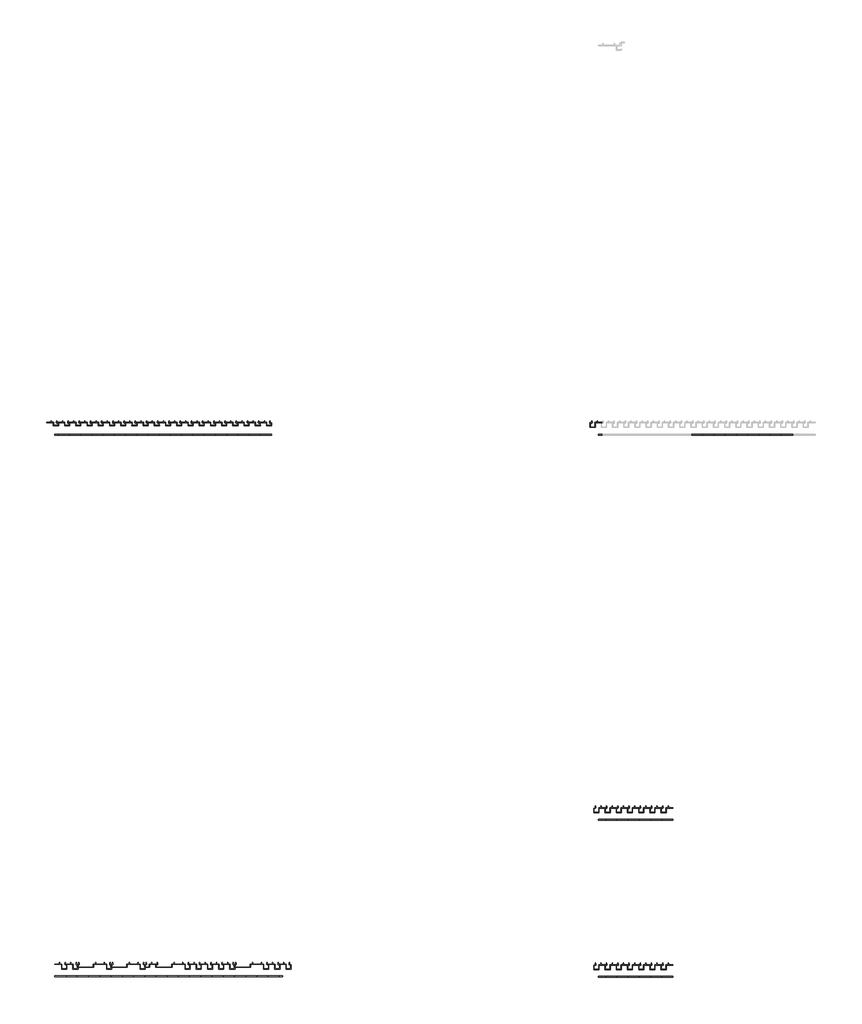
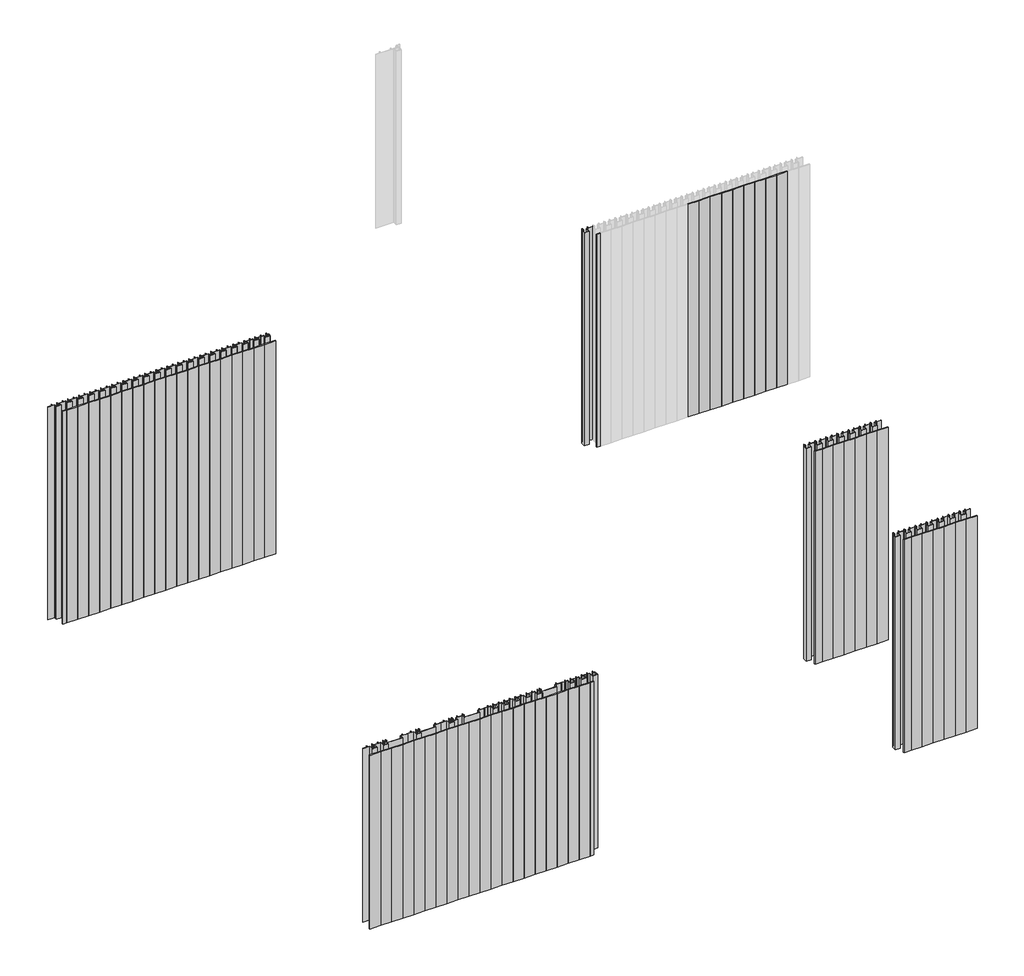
# One storey, part 1 of 5: 65 plates, 52 members.
"""IFC4 building model written with IfcOpenShell, lengths in millimetres."""

from ifc_helpers import new_model, si_unit, origin, place, context, project, spatial, transform, mapped, element, save
from components import rectangular_mullion_70294d3d, rectangular_mullion_d270c674, rectangular_mullion_f86fa1ba, rectangular_mullion_5ee05838, rectangular_mullion_c315bab6, rectangular_mullion_ed2689c2, rectangular_mullion_84234f72, rectangular_mullion_76c2134e, empty_system_panel_empty_0988e1f0, empty_system_panel_empty_c051c962, empty_system_panel_empty_b723bac0, empty_system_panel_empty_58314f5d, empty_system_panel_empty_e4970c4e, empty_system_panel_empty_5e3e958f, empty_system_panel_empty_092e5d7a

model = new_model("IFC4")

# Units and contexts
model_context = context("Model", 3, world=origin())
ifc_project = project(units=[si_unit("LENGTHUNIT", "METRE", prefix="MILLI")], contexts=[model_context])

# Site, building, storey
site = spatial("IfcSite", under=ifc_project)
building = spatial("IfcBuilding", under=site)
storey = spatial("IfcBuildingStorey", under=building, Name="REN - Ground plan", Elevation=0.0)

# Members
placement = place(None, origin())
rectangular_mullion_shape = rectangular_mullion_70294d3d(model_context)
element("IfcMember", 1, ObjectType="Rectangular Mullion : Renson_Linarte_LA-B16-Large", at=placement, inside=storey, context=model_context, shape_type="MappedRepresentation", body=[
    mapped(rectangular_mullion_shape, transform((4184.5640558, 2644.9065197, 0.0), x_axis=(1.0, 0.0, 0.0), y_axis=(0.0, -1.0, 0.0), z_axis=(0.0, 0.0, -1.0))),
])
element("IfcMember", 2, ObjectType="Rectangular Mullion : Renson_Linarte_LA-B16-Large", at=placement, inside=storey, context=model_context, shape_type="MappedRepresentation", body=[
    mapped(rectangular_mullion_shape, transform((4364.5640558, 2644.9065197, 0.0), x_axis=(1.0, 0.0, 0.0), y_axis=(0.0, -1.0, 0.0), z_axis=(0.0, 0.0, -1.0))),
])
element("IfcMember", 3, ObjectType="Rectangular Mullion : Renson_Linarte_LA-B16-Large", at=placement, inside=storey, context=model_context, shape_type="MappedRepresentation", body=[
    mapped(rectangular_mullion_shape, transform((4604.5640558, 2644.9065197, 0.0), x_axis=(1.0, 0.0, 0.0), y_axis=(0.0, -1.0, 0.0), z_axis=(0.0, 0.0, -1.0))),
])
element("IfcMember", 4, ObjectType="Rectangular Mullion : Renson_Linarte_LA-B16-Large", at=placement, inside=storey, context=model_context, shape_type="MappedRepresentation", body=[
    mapped(rectangular_mullion_shape, transform((5024.5640558, 2644.9065197, 0.0), x_axis=(1.0, 0.0, 0.0), y_axis=(0.0, -1.0, 0.0), z_axis=(0.0, 0.0, -1.0))),
])
rectangular_mullion_2_shape = rectangular_mullion_d270c674(model_context)
element("IfcMember", 5, ObjectType="Rectangular Mullion : Renson_Linarte_LA-B16-01", at=placement, inside=storey, context=model_context, shape_type="MappedRepresentation", body=[
    mapped(rectangular_mullion_2_shape, transform((4544.5640558, 2644.9065197, 0.0), x_axis=(1.0, 0.0, 0.0), y_axis=(0.0, -1.0, 0.0), z_axis=(0.0, 0.0, -1.0))),
])
rectangular_mullion_3_shape = rectangular_mullion_f86fa1ba(model_context)
element("IfcMember", 6, ObjectType="Rectangular Mullion : Renson_Linarte_LA-B16-01", at=placement, inside=storey, context=model_context, shape_type="MappedRepresentation", body=[
    mapped(rectangular_mullion_3_shape, transform((5104.5640552, 5541.5060851, 0.0), x_axis=(-1.0, 0.0, 0.0), y_axis=(0.0, 1.0, 0.0), z_axis=(0.0, 0.0, -1.0))),
])
element("IfcMember", 7, ObjectType="Rectangular Mullion : Renson_Linarte_LA-B16-01", at=placement, inside=storey, context=model_context, shape_type="MappedRepresentation", body=[
    mapped(rectangular_mullion_3_shape, transform((5044.5640552, 5541.5060851, 0.0), x_axis=(-1.0, 0.0, 0.0), y_axis=(0.0, 1.0, 0.0), z_axis=(0.0, 0.0, -1.0))),
])
element("IfcMember", 8, ObjectType="Rectangular Mullion : Renson_Linarte_LA-B16-01", at=placement, inside=storey, context=model_context, shape_type="MappedRepresentation", body=[
    mapped(rectangular_mullion_3_shape, transform((4984.5640552, 5541.5060851, 0.0), x_axis=(-1.0, 0.0, 0.0), y_axis=(0.0, 1.0, 0.0), z_axis=(0.0, 0.0, -1.0))),
])
element("IfcMember", 9, ObjectType="Rectangular Mullion : Renson_Linarte_LA-B16-01", at=placement, inside=storey, context=model_context, shape_type="MappedRepresentation", body=[
    mapped(rectangular_mullion_3_shape, transform((4924.5640552, 5541.5060851, 0.0), x_axis=(-1.0, 0.0, 0.0), y_axis=(0.0, 1.0, 0.0), z_axis=(0.0, 0.0, -1.0))),
])
element("IfcMember", 10, ObjectType="Rectangular Mullion : Renson_Linarte_LA-B16-01", at=placement, inside=storey, context=model_context, shape_type="MappedRepresentation", body=[
    mapped(rectangular_mullion_3_shape, transform((4864.5640552, 5541.5060851, 0.0), x_axis=(-1.0, 0.0, 0.0), y_axis=(0.0, 1.0, 0.0), z_axis=(0.0, 0.0, -1.0))),
])
element("IfcMember", 11, ObjectType="Rectangular Mullion : Renson_Linarte_LA-B16-01", at=placement, inside=storey, context=model_context, shape_type="MappedRepresentation", body=[
    mapped(rectangular_mullion_3_shape, transform((4804.5640552, 5541.5060851, 0.0), x_axis=(-1.0, 0.0, 0.0), y_axis=(0.0, 1.0, 0.0), z_axis=(0.0, 0.0, -1.0))),
])
element("IfcMember", 12, ObjectType="Rectangular Mullion : Renson_Linarte_LA-B16-01", at=placement, inside=storey, context=model_context, shape_type="MappedRepresentation", body=[
    mapped(rectangular_mullion_3_shape, transform((4744.5640552, 5541.5060851, 0.0), x_axis=(-1.0, 0.0, 0.0), y_axis=(0.0, 1.0, 0.0), z_axis=(0.0, 0.0, -1.0))),
])
element("IfcMember", 13, ObjectType="Rectangular Mullion : Renson_Linarte_LA-B16-01", at=placement, inside=storey, context=model_context, shape_type="MappedRepresentation", body=[
    mapped(rectangular_mullion_3_shape, transform((4684.5640552, 5541.5060851, 0.0), x_axis=(-1.0, 0.0, 0.0), y_axis=(0.0, 1.0, 0.0), z_axis=(0.0, 0.0, -1.0))),
])
element("IfcMember", 14, ObjectType="Rectangular Mullion : Renson_Linarte_LA-B16-01", at=placement, inside=storey, context=model_context, shape_type="MappedRepresentation", body=[
    mapped(rectangular_mullion_3_shape, transform((4624.5640552, 5541.5060851, 0.0), x_axis=(-1.0, 0.0, 0.0), y_axis=(0.0, 1.0, 0.0), z_axis=(0.0, 0.0, -1.0))),
])
element("IfcMember", 15, ObjectType="Rectangular Mullion : Renson_Linarte_LA-B16-01", at=placement, inside=storey, context=model_context, shape_type="MappedRepresentation", body=[
    mapped(rectangular_mullion_3_shape, transform((4564.5640552, 5541.5060851, 0.0), x_axis=(-1.0, 0.0, 0.0), y_axis=(0.0, 1.0, 0.0), z_axis=(0.0, 0.0, -1.0))),
])
element("IfcMember", 16, ObjectType="Rectangular Mullion : Renson_Linarte_LA-B16-01", at=placement, inside=storey, context=model_context, shape_type="MappedRepresentation", body=[
    mapped(rectangular_mullion_3_shape, transform((4504.5640552, 5541.5060851, 0.0), x_axis=(-1.0, 0.0, 0.0), y_axis=(0.0, 1.0, 0.0), z_axis=(0.0, 0.0, -1.0))),
])
element("IfcMember", 17, ObjectType="Rectangular Mullion : Renson_Linarte_LA-B16-01", at=placement, inside=storey, context=model_context, shape_type="MappedRepresentation", body=[
    mapped(rectangular_mullion_3_shape, transform((4444.5640552, 5541.5060851, 0.0), x_axis=(-1.0, 0.0, 0.0), y_axis=(0.0, 1.0, 0.0), z_axis=(0.0, 0.0, -1.0))),
])
element("IfcMember", 18, ObjectType="Rectangular Mullion : Renson_Linarte_LA-B16-01", at=placement, inside=storey, context=model_context, shape_type="MappedRepresentation", body=[
    mapped(rectangular_mullion_3_shape, transform((4384.5640552, 5541.5060851, 0.0), x_axis=(-1.0, 0.0, 0.0), y_axis=(0.0, 1.0, 0.0), z_axis=(0.0, 0.0, -1.0))),
])
element("IfcMember", 19, ObjectType="Rectangular Mullion : Renson_Linarte_LA-B16-01", at=placement, inside=storey, context=model_context, shape_type="MappedRepresentation", body=[
    mapped(rectangular_mullion_3_shape, transform((4324.5640552, 5541.5060851, 0.0), x_axis=(-1.0, 0.0, 0.0), y_axis=(0.0, 1.0, 0.0), z_axis=(0.0, 0.0, -1.0))),
])
element("IfcMember", 20, ObjectType="Rectangular Mullion : Renson_Linarte_LA-B16-01", at=placement, inside=storey, context=model_context, shape_type="MappedRepresentation", body=[
    mapped(rectangular_mullion_3_shape, transform((4264.5640552, 5541.5060851, 0.0), x_axis=(-1.0, 0.0, 0.0), y_axis=(0.0, 1.0, 0.0), z_axis=(0.0, 0.0, -1.0))),
])
element("IfcMember", 21, ObjectType="Rectangular Mullion : Renson_Linarte_LA-B16-01", at=placement, inside=storey, context=model_context, shape_type="MappedRepresentation", body=[
    mapped(rectangular_mullion_3_shape, transform((4204.5640552, 5541.5060851, 0.0), x_axis=(-1.0, 0.0, 0.0), y_axis=(0.0, 1.0, 0.0), z_axis=(0.0, 0.0, -1.0))),
])
element("IfcMember", 22, ObjectType="Rectangular Mullion : Renson_Linarte_LA-B16-01", at=placement, inside=storey, context=model_context, shape_type="MappedRepresentation", body=[
    mapped(rectangular_mullion_3_shape, transform((4144.5640552, 5541.5060851, 0.0), x_axis=(-1.0, 0.0, 0.0), y_axis=(0.0, 1.0, 0.0), z_axis=(0.0, 0.0, -1.0))),
])
element("IfcMember", 23, ObjectType="Rectangular Mullion : Renson_Linarte_LA-B16-01", at=placement, inside=storey, context=model_context, shape_type="MappedRepresentation", body=[
    mapped(rectangular_mullion_3_shape, transform((5164.5640552, 5541.5060851, 0.0), x_axis=(-1.0, 0.0, 0.0), y_axis=(0.0, 1.0, 0.0), z_axis=(0.0, 0.0, -1.0))),
])
element("IfcMember", 24, ObjectType="Rectangular Mullion : Renson_Linarte_LA-B16-01", at=placement, inside=storey, context=model_context, shape_type="MappedRepresentation", body=[
    mapped(rectangular_mullion_3_shape, transform((4084.5640552, 5541.5060851, 0.0), x_axis=(-1.0, 0.0, 0.0), y_axis=(0.0, 1.0, 0.0), z_axis=(0.0, 0.0, -1.0))),
])
rectangular_mullion_4_shape = rectangular_mullion_5ee05838(model_context)
element("IfcMember", 25, ObjectType="Rectangular Mullion : Renson_Linarte_LA-B16-01", at=placement, inside=storey, context=model_context, shape_type="MappedRepresentation", body=[
    mapped(rectangular_mullion_4_shape, transform((5224.5640555, 5541.5060851, 1225.5020157), x_axis=(1.0, 0.0, 0.0), y_axis=(0.0, 1.0, 0.0), z_axis=(0.0, 0.0, 1.0))),
])
rectangular_mullion_5_shape = rectangular_mullion_c315bab6(model_context)
element("IfcMember", 26, ObjectType="Rectangular Mullion : Renson_Linarte_LA-B25-01", at=placement, inside=storey, context=model_context, shape_type="MappedRepresentation", body=[
    mapped(rectangular_mullion_5_shape, transform((6992.7344965, 5541.5060851, 0.0), x_axis=(-1.0, 0.0, 0.0), y_axis=(0.0, 1.0, 0.0), z_axis=(0.0, 0.0, -1.0))),
])
element("IfcMember", 27, ObjectType="Rectangular Mullion : Renson_Linarte_LA-B25-01-Wood design - Coriander Oak", at=placement, inside=storey, context=model_context, shape_type="MappedRepresentation", body=[
    mapped(rectangular_mullion_5_shape, transform((7252.7344965, 3481.5060851, 0.0), x_axis=(-1.0, 0.0, 0.0), y_axis=(0.0, 1.0, 0.0), z_axis=(0.0, 0.0, -1.0))),
])
element("IfcMember", 28, ObjectType="Rectangular Mullion : Renson_Linarte_LA-B25-01-Wood design - Coriander Oak", at=placement, inside=storey, context=model_context, shape_type="MappedRepresentation", body=[
    mapped(rectangular_mullion_5_shape, transform((7192.7344965, 3481.5060851, 0.0), x_axis=(-1.0, 0.0, 0.0), y_axis=(0.0, 1.0, 0.0), z_axis=(0.0, 0.0, -1.0))),
])
element("IfcMember", 29, ObjectType="Rectangular Mullion : Renson_Linarte_LA-B25-01-Wood design - Coriander Oak", at=placement, inside=storey, context=model_context, shape_type="MappedRepresentation", body=[
    mapped(rectangular_mullion_5_shape, transform((7132.7344965, 3481.5060851, 0.0), x_axis=(-1.0, 0.0, 0.0), y_axis=(0.0, 1.0, 0.0), z_axis=(0.0, 0.0, -1.0))),
])
element("IfcMember", 30, ObjectType="Rectangular Mullion : Renson_Linarte_LA-B25-01-Wood design - Coriander Oak", at=placement, inside=storey, context=model_context, shape_type="MappedRepresentation", body=[
    mapped(rectangular_mullion_5_shape, transform((7072.7344965, 3481.5060851, 0.0), x_axis=(-1.0, 0.0, 0.0), y_axis=(0.0, 1.0, 0.0), z_axis=(0.0, 0.0, -1.0))),
])
element("IfcMember", 31, ObjectType="Rectangular Mullion : Renson_Linarte_LA-B25-01-Wood design - Coriander Oak", at=placement, inside=storey, context=model_context, shape_type="MappedRepresentation", body=[
    mapped(rectangular_mullion_5_shape, transform((7312.7344965, 3481.5060851, 0.0), x_axis=(-1.0, 0.0, 0.0), y_axis=(0.0, 1.0, 0.0), z_axis=(0.0, 0.0, -1.0))),
])
element("IfcMember", 32, ObjectType="Rectangular Mullion : Renson_Linarte_LA-B25-01-Wood design - Coriander Oak", at=placement, inside=storey, context=model_context, shape_type="MappedRepresentation", body=[
    mapped(rectangular_mullion_5_shape, transform((7012.7344965, 3481.5060851, 0.0), x_axis=(-1.0, 0.0, 0.0), y_axis=(0.0, 1.0, 0.0), z_axis=(0.0, 0.0, -1.0))),
])
rectangular_mullion_6_shape = rectangular_mullion_ed2689c2(model_context)
element("IfcMember", 33, ObjectType="Rectangular Mullion : Renson_Linarte_LA-B25-01-Wood design - Coriander Oak", at=placement, inside=storey, context=model_context, shape_type="MappedRepresentation", body=[
    mapped(rectangular_mullion_6_shape, transform((7372.7344968, 3481.5060851, 1225.5020157), x_axis=(1.0, 0.0, 0.0), y_axis=(0.0, 1.0, 0.0), z_axis=(0.0, 0.0, 1.0))),
])
element("IfcMember", 34, ObjectType="Rectangular Mullion : Renson_Linarte_LA-B25-01-Wood design -Toffee Oak", at=placement, inside=storey, context=model_context, shape_type="MappedRepresentation", body=[
    mapped(rectangular_mullion_5_shape, transform((7252.7344965, 2641.5060851, 0.0), x_axis=(-1.0, 0.0, 0.0), y_axis=(0.0, 1.0, 0.0), z_axis=(0.0, 0.0, -1.0))),
])
element("IfcMember", 35, ObjectType="Rectangular Mullion : Renson_Linarte_LA-B25-01-Wood design -Toffee Oak", at=placement, inside=storey, context=model_context, shape_type="MappedRepresentation", body=[
    mapped(rectangular_mullion_5_shape, transform((7192.7344965, 2641.5060851, 0.0), x_axis=(-1.0, 0.0, 0.0), y_axis=(0.0, 1.0, 0.0), z_axis=(0.0, 0.0, -1.0))),
])
element("IfcMember", 36, ObjectType="Rectangular Mullion : Renson_Linarte_LA-B25-01-Wood design -Toffee Oak", at=placement, inside=storey, context=model_context, shape_type="MappedRepresentation", body=[
    mapped(rectangular_mullion_5_shape, transform((7132.7344965, 2641.5060851, 0.0), x_axis=(-1.0, 0.0, 0.0), y_axis=(0.0, 1.0, 0.0), z_axis=(0.0, 0.0, -1.0))),
])
element("IfcMember", 37, ObjectType="Rectangular Mullion : Renson_Linarte_LA-B25-01-Wood design -Toffee Oak", at=placement, inside=storey, context=model_context, shape_type="MappedRepresentation", body=[
    mapped(rectangular_mullion_5_shape, transform((7072.7344965, 2641.5060851, 0.0), x_axis=(-1.0, 0.0, 0.0), y_axis=(0.0, 1.0, 0.0), z_axis=(0.0, 0.0, -1.0))),
])
element("IfcMember", 38, ObjectType="Rectangular Mullion : Renson_Linarte_LA-B25-01-Wood design -Toffee Oak", at=placement, inside=storey, context=model_context, shape_type="MappedRepresentation", body=[
    mapped(rectangular_mullion_5_shape, transform((7312.7344965, 2641.5060851, 0.0), x_axis=(-1.0, 0.0, 0.0), y_axis=(0.0, 1.0, 0.0), z_axis=(0.0, 0.0, -1.0))),
])
element("IfcMember", 39, ObjectType="Rectangular Mullion : Renson_Linarte_LA-B25-01-Wood design -Toffee Oak", at=placement, inside=storey, context=model_context, shape_type="MappedRepresentation", body=[
    mapped(rectangular_mullion_5_shape, transform((7012.7344965, 2641.5060851, 0.0), x_axis=(-1.0, 0.0, 0.0), y_axis=(0.0, 1.0, 0.0), z_axis=(0.0, 0.0, -1.0))),
])
element("IfcMember", 40, ObjectType="Rectangular Mullion : Renson_Linarte_LA-B25-01-Wood design -Toffee Oak", at=placement, inside=storey, context=model_context, shape_type="MappedRepresentation", body=[
    mapped(rectangular_mullion_6_shape, transform((7372.7344968, 2641.5060851, 1225.5020157), x_axis=(1.0, 0.0, 0.0), y_axis=(0.0, 1.0, 0.0), z_axis=(0.0, 0.0, 1.0))),
])
rectangular_mullion_7_shape = rectangular_mullion_84234f72(model_context)
element("IfcMember", 41, ObjectType="Rectangular Mullion : Renson_Linarte_LA-B25-01-Wood design -Toffee Oak", at=placement, inside=storey, context=model_context, shape_type="MappedRepresentation", body=[
    mapped(rectangular_mullion_7_shape, transform((4304.5640558, 2644.9065197, 0.0), x_axis=(1.0, 0.0, 0.0), y_axis=(0.0, -1.0, 0.0), z_axis=(0.0, 0.0, -1.0))),
])
element("IfcMember", 42, ObjectType="Rectangular Mullion : Renson_Linarte_LA-B25-01-Wood design -Toffee Oak", at=placement, inside=storey, context=model_context, shape_type="MappedRepresentation", body=[
    mapped(rectangular_mullion_7_shape, transform((4484.5640558, 2644.9065197, 0.0), x_axis=(1.0, 0.0, 0.0), y_axis=(0.0, -1.0, 0.0), z_axis=(0.0, 0.0, -1.0))),
])
element("IfcMember", 43, ObjectType="Rectangular Mullion : Renson_Linarte_LA-B25-01-Wood design -Toffee Oak", at=placement, inside=storey, context=model_context, shape_type="MappedRepresentation", body=[
    mapped(rectangular_mullion_7_shape, transform((4724.5640558, 2644.9065197, 0.0), x_axis=(1.0, 0.0, 0.0), y_axis=(0.0, -1.0, 0.0), z_axis=(0.0, 0.0, -1.0))),
])
element("IfcMember", 44, ObjectType="Rectangular Mullion : Renson_Linarte_LA-B25-01-Wood design -Toffee Oak", at=placement, inside=storey, context=model_context, shape_type="MappedRepresentation", body=[
    mapped(rectangular_mullion_7_shape, transform((4784.5640558, 2644.9065197, 0.0), x_axis=(1.0, 0.0, 0.0), y_axis=(0.0, -1.0, 0.0), z_axis=(0.0, 0.0, -1.0))),
])
element("IfcMember", 45, ObjectType="Rectangular Mullion : Renson_Linarte_LA-B25-01-Wood design -Toffee Oak", at=placement, inside=storey, context=model_context, shape_type="MappedRepresentation", body=[
    mapped(rectangular_mullion_7_shape, transform((4844.5640558, 2644.9065197, 0.0), x_axis=(1.0, 0.0, 0.0), y_axis=(0.0, -1.0, 0.0), z_axis=(0.0, 0.0, -1.0))),
])
element("IfcMember", 46, ObjectType="Rectangular Mullion : Renson_Linarte_LA-B25-01-Wood design -Toffee Oak", at=placement, inside=storey, context=model_context, shape_type="MappedRepresentation", body=[
    mapped(rectangular_mullion_7_shape, transform((4904.5640558, 2644.9065197, 0.0), x_axis=(1.0, 0.0, 0.0), y_axis=(0.0, -1.0, 0.0), z_axis=(0.0, 0.0, -1.0))),
])
element("IfcMember", 47, ObjectType="Rectangular Mullion : Renson_Linarte_LA-B25-01-Wood design -Toffee Oak", at=placement, inside=storey, context=model_context, shape_type="MappedRepresentation", body=[
    mapped(rectangular_mullion_7_shape, transform((4964.5640558, 2644.9065197, 0.0), x_axis=(1.0, 0.0, 0.0), y_axis=(0.0, -1.0, 0.0), z_axis=(0.0, 0.0, -1.0))),
])
element("IfcMember", 48, ObjectType="Rectangular Mullion : Renson_Linarte_LA-B25-01-Wood design -Toffee Oak", at=placement, inside=storey, context=model_context, shape_type="MappedRepresentation", body=[
    mapped(rectangular_mullion_7_shape, transform((5144.5640558, 2644.9065197, 0.0), x_axis=(1.0, 0.0, 0.0), y_axis=(0.0, -1.0, 0.0), z_axis=(0.0, 0.0, -1.0))),
])
element("IfcMember", 49, ObjectType="Rectangular Mullion : Renson_Linarte_LA-B25-01-Wood design -Toffee Oak", at=placement, inside=storey, context=model_context, shape_type="MappedRepresentation", body=[
    mapped(rectangular_mullion_7_shape, transform((5204.5640558, 2644.9065197, 0.0), x_axis=(1.0, 0.0, 0.0), y_axis=(0.0, -1.0, 0.0), z_axis=(0.0, 0.0, -1.0))),
])
element("IfcMember", 50, ObjectType="Rectangular Mullion : Renson_Linarte_LA-B25-01-Wood design -Toffee Oak", at=placement, inside=storey, context=model_context, shape_type="MappedRepresentation", body=[
    mapped(rectangular_mullion_7_shape, transform((5264.5640558, 2644.9065197, 0.0), x_axis=(1.0, 0.0, 0.0), y_axis=(0.0, -1.0, 0.0), z_axis=(0.0, 0.0, -1.0))),
])
element("IfcMember", 51, ObjectType="Rectangular Mullion : Renson_Linarte_LA-B25-01-Wood design -Toffee Oak", at=placement, inside=storey, context=model_context, shape_type="MappedRepresentation", body=[
    mapped(rectangular_mullion_7_shape, transform((4124.5640558, 2644.9065197, 0.0), x_axis=(1.0, 0.0, 0.0), y_axis=(0.0, -1.0, 0.0), z_axis=(0.0, 0.0, -1.0))),
])
rectangular_mullion_8_shape = rectangular_mullion_76c2134e(model_context)
element("IfcMember", 52, ObjectType="Rectangular Mullion : Renson_Linarte_LA-B25-01-Wood design -Toffee Oak", at=placement, inside=storey, context=model_context, shape_type="MappedRepresentation", body=[
    mapped(rectangular_mullion_8_shape, transform((4064.5640555, 2644.9065197, 1000.0), x_axis=(-1.0, 0.0, 0.0), y_axis=(0.0, -1.0, 0.0), z_axis=(0.0, 0.0, 1.0))),
])

# Plates
empty_system_panel_empty_shape = empty_system_panel_empty_0988e1f0(model_context)
element("IfcPlate", 53, ObjectType="Empty System Panel : Empty", at=placement, inside=storey, context=model_context, shape_type="MappedRepresentation", body=[
    mapped(empty_system_panel_empty_shape, transform((4214.5640558, 2644.9065197, 0.0), x_axis=(1.0, 0.0, 0.0), y_axis=(0.0, 1.0, 0.0), z_axis=(0.0, 0.0, 1.0))),
])
element("IfcPlate", 54, ObjectType="Empty System Panel : Empty", at=placement, inside=storey, context=model_context, shape_type="MappedRepresentation", body=[
    mapped(empty_system_panel_empty_shape, transform((4274.5640558, 2644.9065197, 0.0), x_axis=(1.0, 0.0, 0.0), y_axis=(0.0, 1.0, 0.0), z_axis=(0.0, 0.0, 1.0))),
])
element("IfcPlate", 55, ObjectType="Empty System Panel : Empty", at=placement, inside=storey, context=model_context, shape_type="MappedRepresentation", body=[
    mapped(empty_system_panel_empty_shape, transform((4334.5640558, 2644.9065197, 0.0), x_axis=(1.0, 0.0, 0.0), y_axis=(0.0, 1.0, 0.0), z_axis=(0.0, 0.0, 1.0))),
])
element("IfcPlate", 56, ObjectType="Empty System Panel : Empty", at=placement, inside=storey, context=model_context, shape_type="MappedRepresentation", body=[
    mapped(empty_system_panel_empty_shape, transform((4394.5640558, 2644.9065197, 0.0), x_axis=(1.0, 0.0, 0.0), y_axis=(0.0, 1.0, 0.0), z_axis=(0.0, 0.0, 1.0))),
])
element("IfcPlate", 57, ObjectType="Empty System Panel : Empty", at=placement, inside=storey, context=model_context, shape_type="MappedRepresentation", body=[
    mapped(empty_system_panel_empty_shape, transform((4454.5640558, 2644.9065197, 0.0), x_axis=(1.0, 0.0, 0.0), y_axis=(0.0, 1.0, 0.0), z_axis=(0.0, 0.0, 1.0))),
])
element("IfcPlate", 58, ObjectType="Empty System Panel : Empty", at=placement, inside=storey, context=model_context, shape_type="MappedRepresentation", body=[
    mapped(empty_system_panel_empty_shape, transform((4514.5640558, 2644.9065197, 0.0), x_axis=(1.0, 0.0, 0.0), y_axis=(0.0, 1.0, 0.0), z_axis=(0.0, 0.0, 1.0))),
])
element("IfcPlate", 59, ObjectType="Empty System Panel : Empty", at=placement, inside=storey, context=model_context, shape_type="MappedRepresentation", body=[
    mapped(empty_system_panel_empty_shape, transform((4574.5640558, 2644.9065197, 0.0), x_axis=(1.0, 0.0, 0.0), y_axis=(0.0, 1.0, 0.0), z_axis=(0.0, 0.0, 1.0))),
])
element("IfcPlate", 60, ObjectType="Empty System Panel : Empty", at=placement, inside=storey, context=model_context, shape_type="MappedRepresentation", body=[
    mapped(empty_system_panel_empty_shape, transform((4634.5640558, 2644.9065197, 0.0), x_axis=(1.0, 0.0, 0.0), y_axis=(0.0, 1.0, 0.0), z_axis=(0.0, 0.0, 1.0))),
])
element("IfcPlate", 61, ObjectType="Empty System Panel : Empty", at=placement, inside=storey, context=model_context, shape_type="MappedRepresentation", body=[
    mapped(empty_system_panel_empty_shape, transform((4694.5640558, 2644.9065197, 0.0), x_axis=(1.0, 0.0, 0.0), y_axis=(0.0, 1.0, 0.0), z_axis=(0.0, 0.0, 1.0))),
])
element("IfcPlate", 62, ObjectType="Empty System Panel : Empty", at=placement, inside=storey, context=model_context, shape_type="MappedRepresentation", body=[
    mapped(empty_system_panel_empty_shape, transform((4754.5640558, 2644.9065197, 0.0), x_axis=(1.0, 0.0, 0.0), y_axis=(0.0, 1.0, 0.0), z_axis=(0.0, 0.0, 1.0))),
])
element("IfcPlate", 63, ObjectType="Empty System Panel : Empty", at=placement, inside=storey, context=model_context, shape_type="MappedRepresentation", body=[
    mapped(empty_system_panel_empty_shape, transform((4814.5640558, 2644.9065197, 0.0), x_axis=(1.0, 0.0, 0.0), y_axis=(0.0, 1.0, 0.0), z_axis=(0.0, 0.0, 1.0))),
])
element("IfcPlate", 64, ObjectType="Empty System Panel : Empty", at=placement, inside=storey, context=model_context, shape_type="MappedRepresentation", body=[
    mapped(empty_system_panel_empty_shape, transform((4874.5640558, 2644.9065197, 0.0), x_axis=(1.0, 0.0, 0.0), y_axis=(0.0, 1.0, 0.0), z_axis=(0.0, 0.0, 1.0))),
])
element("IfcPlate", 65, ObjectType="Empty System Panel : Empty", at=placement, inside=storey, context=model_context, shape_type="MappedRepresentation", body=[
    mapped(empty_system_panel_empty_shape, transform((4934.5640558, 2644.9065197, 0.0), x_axis=(1.0, 0.0, 0.0), y_axis=(0.0, 1.0, 0.0), z_axis=(0.0, 0.0, 1.0))),
])
element("IfcPlate", 66, ObjectType="Empty System Panel : Empty", at=placement, inside=storey, context=model_context, shape_type="MappedRepresentation", body=[
    mapped(empty_system_panel_empty_shape, transform((4994.5640558, 2644.9065197, 0.0), x_axis=(1.0, 0.0, 0.0), y_axis=(0.0, 1.0, 0.0), z_axis=(0.0, 0.0, 1.0))),
])
element("IfcPlate", 67, ObjectType="Empty System Panel : Empty", at=placement, inside=storey, context=model_context, shape_type="MappedRepresentation", body=[
    mapped(empty_system_panel_empty_shape, transform((5054.5640558, 2644.9065197, 0.0), x_axis=(1.0, 0.0, 0.0), y_axis=(0.0, 1.0, 0.0), z_axis=(0.0, 0.0, 1.0))),
])
element("IfcPlate", 68, ObjectType="Empty System Panel : Empty", at=placement, inside=storey, context=model_context, shape_type="MappedRepresentation", body=[
    mapped(empty_system_panel_empty_shape, transform((5114.5640558, 2644.9065197, 0.0), x_axis=(1.0, 0.0, 0.0), y_axis=(0.0, 1.0, 0.0), z_axis=(0.0, 0.0, 1.0))),
])
element("IfcPlate", 69, ObjectType="Empty System Panel : Empty", at=placement, inside=storey, context=model_context, shape_type="MappedRepresentation", body=[
    mapped(empty_system_panel_empty_shape, transform((5174.5640558, 2644.9065197, 0.0), x_axis=(1.0, 0.0, 0.0), y_axis=(0.0, 1.0, 0.0), z_axis=(0.0, 0.0, 1.0))),
])
element("IfcPlate", 70, ObjectType="Empty System Panel : Empty", at=placement, inside=storey, context=model_context, shape_type="MappedRepresentation", body=[
    mapped(empty_system_panel_empty_shape, transform((5234.5640558, 2644.9065197, 0.0), x_axis=(1.0, 0.0, 0.0), y_axis=(0.0, 1.0, 0.0), z_axis=(0.0, 0.0, 1.0))),
])
element("IfcPlate", 71, ObjectType="Empty System Panel : Empty", at=placement, inside=storey, context=model_context, shape_type="MappedRepresentation", body=[
    mapped(empty_system_panel_empty_shape, transform((4154.5640558, 2644.9065197, 0.0), x_axis=(1.0, 0.0, 0.0), y_axis=(0.0, 1.0, 0.0), z_axis=(0.0, 0.0, 1.0))),
])
empty_system_panel_empty_2_shape = empty_system_panel_empty_c051c962(model_context)
element("IfcPlate", 72, ObjectType="Empty System Panel : Empty", at=placement, inside=storey, context=model_context, shape_type="MappedRepresentation", body=[
    mapped(empty_system_panel_empty_2_shape, transform((4094.5640556, 2644.9065197, 0.0), x_axis=(1.0, 0.0, 0.0), y_axis=(0.0, 1.0, 0.0), z_axis=(0.0, 0.0, 1.0))),
])
empty_system_panel_empty_3_shape = empty_system_panel_empty_b723bac0(model_context)
element("IfcPlate", 73, ObjectType="Empty System Panel : Empty", at=placement, inside=storey, context=model_context, shape_type="MappedRepresentation", body=[
    mapped(empty_system_panel_empty_3_shape, transform((5074.5640552, 5541.5060851, 0.0), x_axis=(-1.0, 0.0, 0.0), y_axis=(0.0, -1.0, 0.0), z_axis=(0.0, 0.0, 1.0))),
])
element("IfcPlate", 74, ObjectType="Empty System Panel : Empty", at=placement, inside=storey, context=model_context, shape_type="MappedRepresentation", body=[
    mapped(empty_system_panel_empty_3_shape, transform((5014.5640552, 5541.5060851, 0.0), x_axis=(-1.0, 0.0, 0.0), y_axis=(0.0, -1.0, 0.0), z_axis=(0.0, 0.0, 1.0))),
])
element("IfcPlate", 75, ObjectType="Empty System Panel : Empty", at=placement, inside=storey, context=model_context, shape_type="MappedRepresentation", body=[
    mapped(empty_system_panel_empty_3_shape, transform((4954.5640552, 5541.5060851, 0.0), x_axis=(-1.0, 0.0, 0.0), y_axis=(0.0, -1.0, 0.0), z_axis=(0.0, 0.0, 1.0))),
])
element("IfcPlate", 76, ObjectType="Empty System Panel : Empty", at=placement, inside=storey, context=model_context, shape_type="MappedRepresentation", body=[
    mapped(empty_system_panel_empty_3_shape, transform((4894.5640552, 5541.5060851, 0.0), x_axis=(-1.0, 0.0, 0.0), y_axis=(0.0, -1.0, 0.0), z_axis=(0.0, 0.0, 1.0))),
])
element("IfcPlate", 77, ObjectType="Empty System Panel : Empty", at=placement, inside=storey, context=model_context, shape_type="MappedRepresentation", body=[
    mapped(empty_system_panel_empty_3_shape, transform((4834.5640552, 5541.5060851, 0.0), x_axis=(-1.0, 0.0, 0.0), y_axis=(0.0, -1.0, 0.0), z_axis=(0.0, 0.0, 1.0))),
])
element("IfcPlate", 78, ObjectType="Empty System Panel : Empty", at=placement, inside=storey, context=model_context, shape_type="MappedRepresentation", body=[
    mapped(empty_system_panel_empty_3_shape, transform((4774.5640552, 5541.5060851, 0.0), x_axis=(-1.0, 0.0, 0.0), y_axis=(0.0, -1.0, 0.0), z_axis=(0.0, 0.0, 1.0))),
])
element("IfcPlate", 79, ObjectType="Empty System Panel : Empty", at=placement, inside=storey, context=model_context, shape_type="MappedRepresentation", body=[
    mapped(empty_system_panel_empty_3_shape, transform((4714.5640552, 5541.5060851, 0.0), x_axis=(-1.0, 0.0, 0.0), y_axis=(0.0, -1.0, 0.0), z_axis=(0.0, 0.0, 1.0))),
])
element("IfcPlate", 80, ObjectType="Empty System Panel : Empty", at=placement, inside=storey, context=model_context, shape_type="MappedRepresentation", body=[
    mapped(empty_system_panel_empty_3_shape, transform((4654.5640552, 5541.5060851, 0.0), x_axis=(-1.0, 0.0, 0.0), y_axis=(0.0, -1.0, 0.0), z_axis=(0.0, 0.0, 1.0))),
])
element("IfcPlate", 81, ObjectType="Empty System Panel : Empty", at=placement, inside=storey, context=model_context, shape_type="MappedRepresentation", body=[
    mapped(empty_system_panel_empty_3_shape, transform((4594.5640552, 5541.5060851, 0.0), x_axis=(-1.0, 0.0, 0.0), y_axis=(0.0, -1.0, 0.0), z_axis=(0.0, 0.0, 1.0))),
])
element("IfcPlate", 82, ObjectType="Empty System Panel : Empty", at=placement, inside=storey, context=model_context, shape_type="MappedRepresentation", body=[
    mapped(empty_system_panel_empty_3_shape, transform((4534.5640552, 5541.5060851, 0.0), x_axis=(-1.0, 0.0, 0.0), y_axis=(0.0, -1.0, 0.0), z_axis=(0.0, 0.0, 1.0))),
])
element("IfcPlate", 83, ObjectType="Empty System Panel : Empty", at=placement, inside=storey, context=model_context, shape_type="MappedRepresentation", body=[
    mapped(empty_system_panel_empty_3_shape, transform((4474.5640552, 5541.5060851, 0.0), x_axis=(-1.0, 0.0, 0.0), y_axis=(0.0, -1.0, 0.0), z_axis=(0.0, 0.0, 1.0))),
])
element("IfcPlate", 84, ObjectType="Empty System Panel : Empty", at=placement, inside=storey, context=model_context, shape_type="MappedRepresentation", body=[
    mapped(empty_system_panel_empty_3_shape, transform((4414.5640552, 5541.5060851, 0.0), x_axis=(-1.0, 0.0, 0.0), y_axis=(0.0, -1.0, 0.0), z_axis=(0.0, 0.0, 1.0))),
])
element("IfcPlate", 85, ObjectType="Empty System Panel : Empty", at=placement, inside=storey, context=model_context, shape_type="MappedRepresentation", body=[
    mapped(empty_system_panel_empty_3_shape, transform((4354.5640552, 5541.5060851, 0.0), x_axis=(-1.0, 0.0, 0.0), y_axis=(0.0, -1.0, 0.0), z_axis=(0.0, 0.0, 1.0))),
])
element("IfcPlate", 86, ObjectType="Empty System Panel : Empty", at=placement, inside=storey, context=model_context, shape_type="MappedRepresentation", body=[
    mapped(empty_system_panel_empty_3_shape, transform((4294.5640552, 5541.5060851, 0.0), x_axis=(-1.0, 0.0, 0.0), y_axis=(0.0, -1.0, 0.0), z_axis=(0.0, 0.0, 1.0))),
])
element("IfcPlate", 87, ObjectType="Empty System Panel : Empty", at=placement, inside=storey, context=model_context, shape_type="MappedRepresentation", body=[
    mapped(empty_system_panel_empty_3_shape, transform((4234.5640552, 5541.5060851, 0.0), x_axis=(-1.0, 0.0, 0.0), y_axis=(0.0, -1.0, 0.0), z_axis=(0.0, 0.0, 1.0))),
])
element("IfcPlate", 88, ObjectType="Empty System Panel : Empty", at=placement, inside=storey, context=model_context, shape_type="MappedRepresentation", body=[
    mapped(empty_system_panel_empty_3_shape, transform((4174.5640552, 5541.5060851, 0.0), x_axis=(-1.0, 0.0, 0.0), y_axis=(0.0, -1.0, 0.0), z_axis=(0.0, 0.0, 1.0))),
])
element("IfcPlate", 89, ObjectType="Empty System Panel : Empty", at=placement, inside=storey, context=model_context, shape_type="MappedRepresentation", body=[
    mapped(empty_system_panel_empty_3_shape, transform((4114.5640552, 5541.5060851, 0.0), x_axis=(-1.0, 0.0, 0.0), y_axis=(0.0, -1.0, 0.0), z_axis=(0.0, 0.0, 1.0))),
])
element("IfcPlate", 90, ObjectType="Empty System Panel : Empty", at=placement, inside=storey, context=model_context, shape_type="MappedRepresentation", body=[
    mapped(empty_system_panel_empty_3_shape, transform((5134.5640552, 5541.5060851, 0.0), x_axis=(-1.0, 0.0, 0.0), y_axis=(0.0, -1.0, 0.0), z_axis=(0.0, 0.0, 1.0))),
])
element("IfcPlate", 91, ObjectType="Empty System Panel : Empty", at=placement, inside=storey, context=model_context, shape_type="MappedRepresentation", body=[
    mapped(empty_system_panel_empty_3_shape, transform((7982.7344965, 5541.5060851, 0.0), x_axis=(-1.0, 0.0, 0.0), y_axis=(0.0, -1.0, 0.0), z_axis=(0.0, 0.0, 1.0))),
])
element("IfcPlate", 92, ObjectType="Empty System Panel : Empty", at=placement, inside=storey, context=model_context, shape_type="MappedRepresentation", body=[
    mapped(empty_system_panel_empty_3_shape, transform((7922.7344965, 5541.5060851, 0.0), x_axis=(-1.0, 0.0, 0.0), y_axis=(0.0, -1.0, 0.0), z_axis=(0.0, 0.0, 1.0))),
])
element("IfcPlate", 93, ObjectType="Empty System Panel : Empty", at=placement, inside=storey, context=model_context, shape_type="MappedRepresentation", body=[
    mapped(empty_system_panel_empty_3_shape, transform((7862.7344965, 5541.5060851, 0.0), x_axis=(-1.0, 0.0, 0.0), y_axis=(0.0, -1.0, 0.0), z_axis=(0.0, 0.0, 1.0))),
])
element("IfcPlate", 94, ObjectType="Empty System Panel : Empty", at=placement, inside=storey, context=model_context, shape_type="MappedRepresentation", body=[
    mapped(empty_system_panel_empty_3_shape, transform((7802.7344965, 5541.5060851, 0.0), x_axis=(-1.0, 0.0, 0.0), y_axis=(0.0, -1.0, 0.0), z_axis=(0.0, 0.0, 1.0))),
])
element("IfcPlate", 95, ObjectType="Empty System Panel : Empty", at=placement, inside=storey, context=model_context, shape_type="MappedRepresentation", body=[
    mapped(empty_system_panel_empty_3_shape, transform((7742.7344965, 5541.5060851, 0.0), x_axis=(-1.0, 0.0, 0.0), y_axis=(0.0, -1.0, 0.0), z_axis=(0.0, 0.0, 1.0))),
])
element("IfcPlate", 96, ObjectType="Empty System Panel : Empty", at=placement, inside=storey, context=model_context, shape_type="MappedRepresentation", body=[
    mapped(empty_system_panel_empty_3_shape, transform((7682.7344965, 5541.5060851, 0.0), x_axis=(-1.0, 0.0, 0.0), y_axis=(0.0, -1.0, 0.0), z_axis=(0.0, 0.0, 1.0))),
])
element("IfcPlate", 97, ObjectType="Empty System Panel : Empty", at=placement, inside=storey, context=model_context, shape_type="MappedRepresentation", body=[
    mapped(empty_system_panel_empty_3_shape, transform((7622.7344965, 5541.5060851, 0.0), x_axis=(-1.0, 0.0, 0.0), y_axis=(0.0, -1.0, 0.0), z_axis=(0.0, 0.0, 1.0))),
])
element("IfcPlate", 98, ObjectType="Empty System Panel : Empty", at=placement, inside=storey, context=model_context, shape_type="MappedRepresentation", body=[
    mapped(empty_system_panel_empty_3_shape, transform((7562.7344965, 5541.5060851, 0.0), x_axis=(-1.0, 0.0, 0.0), y_axis=(0.0, -1.0, 0.0), z_axis=(0.0, 0.0, 1.0))),
])
element("IfcPlate", 99, ObjectType="Empty System Panel : Empty", at=placement, inside=storey, context=model_context, shape_type="MappedRepresentation", body=[
    mapped(empty_system_panel_empty_3_shape, transform((7502.7344965, 5541.5060851, 0.0), x_axis=(-1.0, 0.0, 0.0), y_axis=(0.0, -1.0, 0.0), z_axis=(0.0, 0.0, 1.0))),
])
element("IfcPlate", 100, ObjectType="Empty System Panel : Empty", at=placement, inside=storey, context=model_context, shape_type="MappedRepresentation", body=[
    mapped(empty_system_panel_empty_3_shape, transform((7222.7344965, 3481.5060851, 0.0), x_axis=(-1.0, 0.0, 0.0), y_axis=(0.0, -1.0, 0.0), z_axis=(0.0, 0.0, 1.0))),
])
element("IfcPlate", 101, ObjectType="Empty System Panel : Empty", at=placement, inside=storey, context=model_context, shape_type="MappedRepresentation", body=[
    mapped(empty_system_panel_empty_3_shape, transform((7162.7344965, 3481.5060851, 0.0), x_axis=(-1.0, 0.0, 0.0), y_axis=(0.0, -1.0, 0.0), z_axis=(0.0, 0.0, 1.0))),
])
element("IfcPlate", 102, ObjectType="Empty System Panel : Empty", at=placement, inside=storey, context=model_context, shape_type="MappedRepresentation", body=[
    mapped(empty_system_panel_empty_3_shape, transform((7102.7344965, 3481.5060851, 0.0), x_axis=(-1.0, 0.0, 0.0), y_axis=(0.0, -1.0, 0.0), z_axis=(0.0, 0.0, 1.0))),
])
element("IfcPlate", 103, ObjectType="Empty System Panel : Empty", at=placement, inside=storey, context=model_context, shape_type="MappedRepresentation", body=[
    mapped(empty_system_panel_empty_3_shape, transform((7042.7344965, 3481.5060851, 0.0), x_axis=(-1.0, 0.0, 0.0), y_axis=(0.0, -1.0, 0.0), z_axis=(0.0, 0.0, 1.0))),
])
element("IfcPlate", 104, ObjectType="Empty System Panel : Empty", at=placement, inside=storey, context=model_context, shape_type="MappedRepresentation", body=[
    mapped(empty_system_panel_empty_3_shape, transform((7282.7344965, 3481.5060851, 0.0), x_axis=(-1.0, 0.0, 0.0), y_axis=(0.0, -1.0, 0.0), z_axis=(0.0, 0.0, 1.0))),
])
element("IfcPlate", 105, ObjectType="Empty System Panel : Empty", at=placement, inside=storey, context=model_context, shape_type="MappedRepresentation", body=[
    mapped(empty_system_panel_empty_3_shape, transform((7222.7344965, 2641.5060851, 0.0), x_axis=(-1.0, 0.0, 0.0), y_axis=(0.0, -1.0, 0.0), z_axis=(0.0, 0.0, 1.0))),
])
element("IfcPlate", 106, ObjectType="Empty System Panel : Empty", at=placement, inside=storey, context=model_context, shape_type="MappedRepresentation", body=[
    mapped(empty_system_panel_empty_3_shape, transform((7162.7344965, 2641.5060851, 0.0), x_axis=(-1.0, 0.0, 0.0), y_axis=(0.0, -1.0, 0.0), z_axis=(0.0, 0.0, 1.0))),
])
element("IfcPlate", 107, ObjectType="Empty System Panel : Empty", at=placement, inside=storey, context=model_context, shape_type="MappedRepresentation", body=[
    mapped(empty_system_panel_empty_3_shape, transform((7102.7344965, 2641.5060851, 0.0), x_axis=(-1.0, 0.0, 0.0), y_axis=(0.0, -1.0, 0.0), z_axis=(0.0, 0.0, 1.0))),
])
element("IfcPlate", 108, ObjectType="Empty System Panel : Empty", at=placement, inside=storey, context=model_context, shape_type="MappedRepresentation", body=[
    mapped(empty_system_panel_empty_3_shape, transform((7042.7344965, 2641.5060851, 0.0), x_axis=(-1.0, 0.0, 0.0), y_axis=(0.0, -1.0, 0.0), z_axis=(0.0, 0.0, 1.0))),
])
element("IfcPlate", 109, ObjectType="Empty System Panel : Empty", at=placement, inside=storey, context=model_context, shape_type="MappedRepresentation", body=[
    mapped(empty_system_panel_empty_3_shape, transform((7282.7344965, 2641.5060851, 0.0), x_axis=(-1.0, 0.0, 0.0), y_axis=(0.0, -1.0, 0.0), z_axis=(0.0, 0.0, 1.0))),
])
empty_system_panel_empty_4_shape = empty_system_panel_empty_58314f5d(model_context)
element("IfcPlate", 110, ObjectType="Empty System Panel : Empty", at=placement, inside=storey, context=model_context, shape_type="MappedRepresentation", body=[
    mapped(empty_system_panel_empty_4_shape, transform((5194.5640553, 5541.5060851, 0.0), x_axis=(-1.0, 0.0, 0.0), y_axis=(0.0, -1.0, 0.0), z_axis=(0.0, 0.0, 1.0))),
])
element("IfcPlate", 111, ObjectType="Empty System Panel : Empty", at=placement, inside=storey, context=model_context, shape_type="MappedRepresentation", body=[
    mapped(empty_system_panel_empty_4_shape, transform((7342.7344966, 3481.5060851, 0.0), x_axis=(-1.0, 0.0, 0.0), y_axis=(0.0, -1.0, 0.0), z_axis=(0.0, 0.0, 1.0))),
])
element("IfcPlate", 112, ObjectType="Empty System Panel : Empty", at=placement, inside=storey, context=model_context, shape_type="MappedRepresentation", body=[
    mapped(empty_system_panel_empty_4_shape, transform((7342.7344966, 2641.5060851, 0.0), x_axis=(-1.0, 0.0, 0.0), y_axis=(0.0, -1.0, 0.0), z_axis=(0.0, 0.0, 1.0))),
])
empty_system_panel_empty_5_shape = empty_system_panel_empty_e4970c4e(model_context)
element("IfcPlate", 113, ObjectType="Empty System Panel : Empty", at=placement, inside=storey, context=model_context, shape_type="MappedRepresentation", body=[
    mapped(empty_system_panel_empty_5_shape, transform((4074.5640553, 5541.5060851, 0.0), x_axis=(-1.0, 0.0, 0.0), y_axis=(0.0, -1.0, 0.0), z_axis=(0.0, 0.0, 1.0))),
])
element("IfcPlate", 114, ObjectType="Empty System Panel : Empty", at=placement, inside=storey, context=model_context, shape_type="MappedRepresentation", body=[
    mapped(empty_system_panel_empty_5_shape, transform((6982.7344966, 5541.5060851, 0.0), x_axis=(-1.0, 0.0, 0.0), y_axis=(0.0, -1.0, 0.0), z_axis=(0.0, 0.0, 1.0))),
])
empty_system_panel_empty_6_shape = empty_system_panel_empty_5e3e958f(model_context)
element("IfcPlate", 115, ObjectType="Empty System Panel : Empty", at=placement, inside=storey, context=model_context, shape_type="MappedRepresentation", body=[
    mapped(empty_system_panel_empty_6_shape, transform((6992.7344966, 3481.5060851, 0.0), x_axis=(-1.0, 0.0, 0.0), y_axis=(0.0, -1.0, 0.0), z_axis=(0.0, 0.0, 1.0))),
])
element("IfcPlate", 116, ObjectType="Empty System Panel : Empty", at=placement, inside=storey, context=model_context, shape_type="MappedRepresentation", body=[
    mapped(empty_system_panel_empty_6_shape, transform((6992.7344966, 2641.5060851, 0.0), x_axis=(-1.0, 0.0, 0.0), y_axis=(0.0, -1.0, 0.0), z_axis=(0.0, 0.0, 1.0))),
])
empty_system_panel_empty_7_shape = empty_system_panel_empty_092e5d7a(model_context)
element("IfcPlate", 117, ObjectType="Empty System Panel : Empty", at=placement, inside=storey, context=model_context, shape_type="MappedRepresentation", body=[
    mapped(empty_system_panel_empty_7_shape, transform((5274.5640556, 2644.9065197, 0.0), x_axis=(1.0, 0.0, 0.0), y_axis=(0.0, 1.0, 0.0), z_axis=(0.0, 0.0, 1.0))),
])

save(model, "model.ifc")
